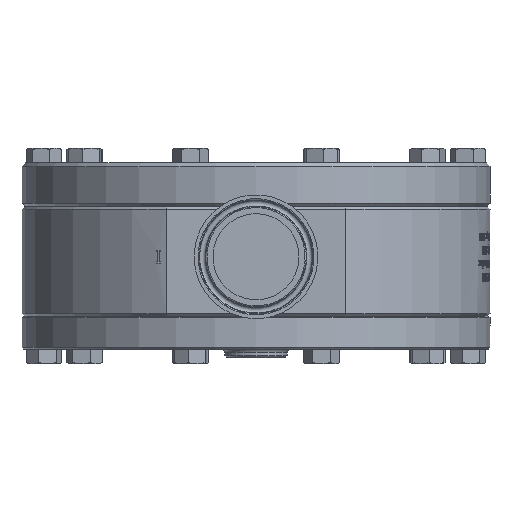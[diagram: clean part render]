
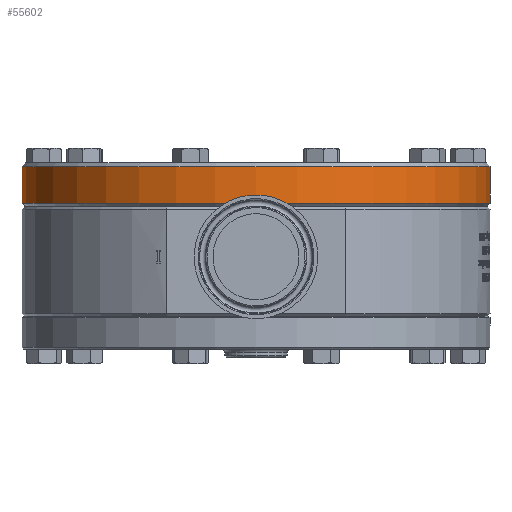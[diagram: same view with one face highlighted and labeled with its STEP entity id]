
A CAD part, left-side view. The second image highlights one B-rep face of the part: STEP entity #55602.
In plain terms, the highlighted cylindrical face has radius 95.25 mm (diameter 190.5 mm), a full revolution.
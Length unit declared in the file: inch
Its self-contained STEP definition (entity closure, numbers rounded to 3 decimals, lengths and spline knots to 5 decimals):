
#5045=LINE('',#109769,#9747);
#9747=VECTOR('',#65099,3.75);
#13686=CIRCLE('',#58978,3.75);
#13687=CIRCLE('',#58979,3.75);
#13689=CIRCLE('',#58983,3.75);
#13690=CIRCLE('',#58984,3.75);
#15502=FACE_OUTER_BOUND('',#18816,.T.);
#18816=EDGE_LOOP('',(#43848,#43849,#43850,#43851,#43852,#43853));
#25383=VERTEX_POINT('',#109728);
#25384=VERTEX_POINT('',#109729);
#25390=VERTEX_POINT('',#109765);
#25391=VERTEX_POINT('',#109766);
#32046=EDGE_CURVE('',#25383,#25384,#13686,.T.);
#32047=EDGE_CURVE('',#25384,#25383,#13687,.T.);
#32054=EDGE_CURVE('',#25390,#25391,#13689,.T.);
#32055=EDGE_CURVE('',#25391,#25390,#13690,.T.);
#32056=EDGE_CURVE('',#25391,#25384,#5045,.T.);
#43848=ORIENTED_EDGE('',*,*,#32054,.F.);
#43849=ORIENTED_EDGE('',*,*,#32055,.F.);
#43850=ORIENTED_EDGE('',*,*,#32056,.T.);
#43851=ORIENTED_EDGE('',*,*,#32046,.F.);
#43852=ORIENTED_EDGE('',*,*,#32047,.F.);
#43853=ORIENTED_EDGE('',*,*,#32056,.F.);
#54294=CYLINDRICAL_SURFACE('',#58982,3.75);
#55602=ADVANCED_FACE('',(#15502),#54294,.T.);
#58978=AXIS2_PLACEMENT_3D('',#109730,#65084,#65085);
#58979=AXIS2_PLACEMENT_3D('',#109731,#65086,#65087);
#58982=AXIS2_PLACEMENT_3D('',#109764,#65093,#65094);
#58983=AXIS2_PLACEMENT_3D('',#109767,#65095,#65096);
#58984=AXIS2_PLACEMENT_3D('',#109768,#65097,#65098);
#65084=DIRECTION('center_axis',(0.,0.,
-1.));
#65085=DIRECTION('ref_axis',(0.,-1.,0.));
#65086=DIRECTION('center_axis',(0.,0.,
-1.));
#65087=DIRECTION('ref_axis',(0.,-1.,0.));
#65093=DIRECTION('center_axis',(0.,0.,
1.));
#65094=DIRECTION('ref_axis',(0.,1.,0.));
#65095=DIRECTION('center_axis',(0.,0.,
1.));
#65096=DIRECTION('ref_axis',(0.,-1.,0.));
#65097=DIRECTION('center_axis',(0.,0.,
1.));
#65098=DIRECTION('ref_axis',(0.,-1.,0.));
#65099=DIRECTION('',(0.,0.,-1.));
#109728=CARTESIAN_POINT('',(0.,3.75,0.86));
#109729=CARTESIAN_POINT('',(0.,-3.75,0.86));
#109730=CARTESIAN_POINT('Origin',(0.,0.,
0.86));
#109731=CARTESIAN_POINT('Origin',(0.,0.,
0.86));
#109764=CARTESIAN_POINT('Origin',(0.,0.,
1.1525));
#109765=CARTESIAN_POINT('',(0.,3.75,1.445));
#109766=CARTESIAN_POINT('',(0.,-3.75,1.445));
#109767=CARTESIAN_POINT('Origin',(0.,0.,
1.445));
#109768=CARTESIAN_POINT('Origin',(0.,0.,
1.445));
#109769=CARTESIAN_POINT('',(0.,-3.75,1.1525));
